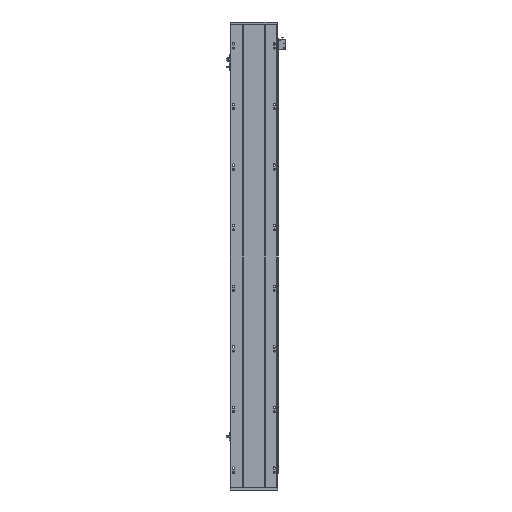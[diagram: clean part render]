
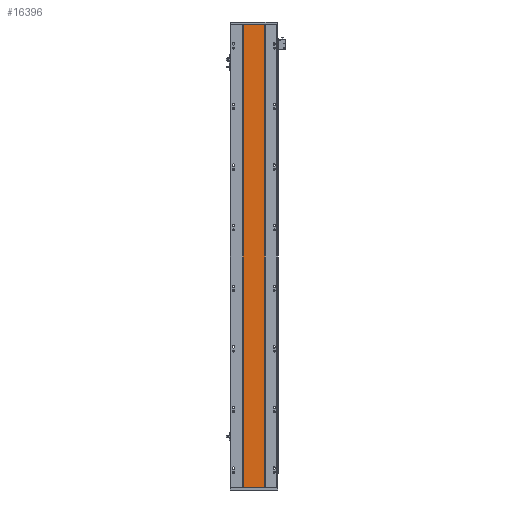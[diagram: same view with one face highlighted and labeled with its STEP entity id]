
A CAD part, front view. The second image highlights one B-rep face of the part: STEP entity #16396.
In plain terms, the highlighted planar face has unit normal (0, -1, 0).
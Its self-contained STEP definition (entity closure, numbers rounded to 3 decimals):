
#2302 = DIRECTION ( 'NONE',  ( 1., 0., 0. ) ) ;
#2737 = DIRECTION ( 'NONE',  ( 0., 0., -1. ) ) ;
#2873 = CARTESIAN_POINT ( 'NONE',  ( 205.288, 16.9, 0. ) ) ;
#4555 = VERTEX_POINT ( 'NONE', #7250 ) ;
#6574 = EDGE_LOOP ( 'NONE', ( #21726, #19945, #14409, #32977 ) ) ;
#6939 = VERTEX_POINT ( 'NONE', #2873 ) ;
#7250 = CARTESIAN_POINT ( 'NONE',  ( 129.288, 16.9, 0. ) ) ;
#11267 = CARTESIAN_POINT ( 'NONE',  ( 205.288, 16.9, 1648. ) ) ;
#11299 = VECTOR ( 'NONE', #21671, 1000. ) ;
#11341 = CARTESIAN_POINT ( 'NONE',  ( 205.288, 16.9, 1648. ) ) ;
#12498 = AXIS2_PLACEMENT_3D ( 'NONE', #17269, #30858, #34174 ) ;
#13762 = FACE_OUTER_BOUND ( 'NONE', #6574, .T. ) ;
#14121 = LINE ( 'NONE', #11341, #25494 ) ;
#14409 = ORIENTED_EDGE ( 'NONE', *, *, #32000, .F. ) ;
#14493 = CARTESIAN_POINT ( 'NONE',  ( 205.288, 16.9, 0. ) ) ;
#14610 = VERTEX_POINT ( 'NONE', #19216 ) ;
#15668 = VECTOR ( 'NONE', #27610, 1000. ) ;
#16396 = ADVANCED_FACE ( 'NONE', ( #13762 ), #25703, .F. ) ;
#17269 = CARTESIAN_POINT ( 'NONE',  ( 205.288, 16.9, 1648. ) ) ;
#17512 = EDGE_CURVE ( 'NONE', #35291, #6939, #14121, .T. ) ;
#18873 = CARTESIAN_POINT ( 'NONE',  ( 129.288, 16.9, 1648. ) ) ;
#19216 = CARTESIAN_POINT ( 'NONE',  ( 129.288, 16.9, 1648. ) ) ;
#19945 = ORIENTED_EDGE ( 'NONE', *, *, #17512, .F. ) ;
#20614 = VECTOR ( 'NONE', #2302, 1000. ) ;
#20756 = EDGE_CURVE ( 'NONE', #14610, #4555, #23976, .T. ) ;
#21671 = DIRECTION ( 'NONE',  ( 1., 0., 0. ) ) ;
#21726 = ORIENTED_EDGE ( 'NONE', *, *, #30013, .T. ) ;
#21759 = CARTESIAN_POINT ( 'NONE',  ( 129.288, 16.9, 1648. ) ) ;
#23222 = LINE ( 'NONE', #14493, #20614 ) ;
#23976 = LINE ( 'NONE', #21759, #15668 ) ;
#25494 = VECTOR ( 'NONE', #2737, 1000. ) ;
#25703 = PLANE ( 'NONE',  #12498 ) ;
#27610 = DIRECTION ( 'NONE',  ( 0., 0., -1. ) ) ;
#29705 = LINE ( 'NONE', #18873, #11299 ) ;
#30013 = EDGE_CURVE ( 'NONE', #4555, #6939, #23222, .T. ) ;
#30858 = DIRECTION ( 'NONE',  ( 0., 1., 0. ) ) ;
#32000 = EDGE_CURVE ( 'NONE', #14610, #35291, #29705, .T. ) ;
#32977 = ORIENTED_EDGE ( 'NONE', *, *, #20756, .T. ) ;
#34174 = DIRECTION ( 'NONE',  ( -1., 0., 0. ) ) ;
#35291 = VERTEX_POINT ( 'NONE', #11267 ) ;
